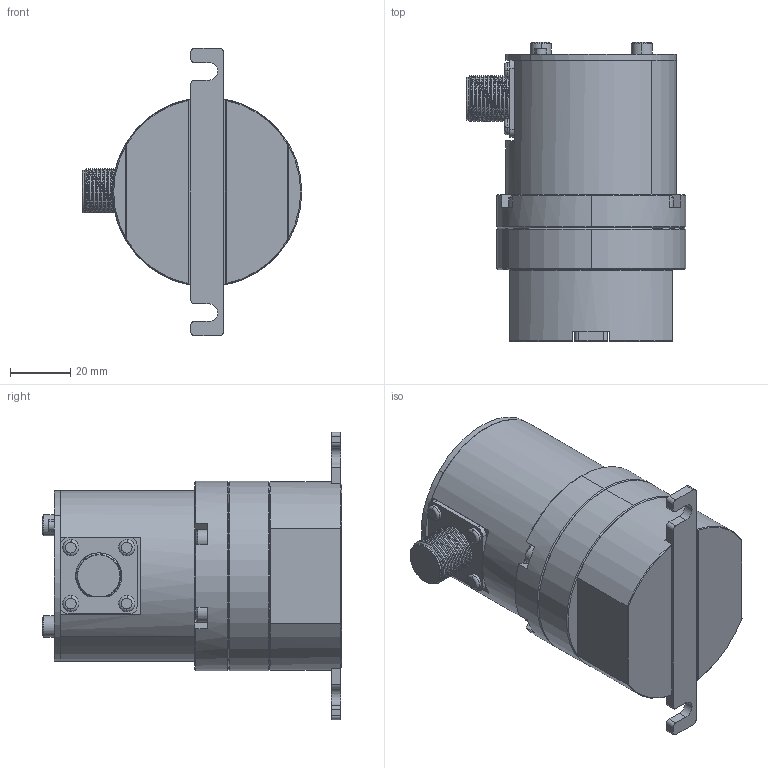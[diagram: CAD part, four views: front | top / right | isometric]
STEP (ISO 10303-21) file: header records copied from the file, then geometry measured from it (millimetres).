
FILE_DESCRIPTION((''),'2;1');
FILE_NAME('FX250XX-EN-A_PRT','2022-06-21T15:06:33',('qufmd1'),(''),'CREO PARAMETRIC BY PTC INC, 2021072','CREO PARAMETRIC BY PTC INC, 2021072','');
FILE_SCHEMA(('CONFIG_CONTROL_DESIGN'));
Length unit declared in the file: inch
Products named in the file (1): FX250XX-EN-A_PRT
Bounding box: 72.78 x 99.25 x 95.25 mm (x, y, z)
Surface area: 42983.5 mm2 (no closed solid volume)
Topology: 0 solids, 20 shells, 230 faces, 585 edges, 378 vertices
Faces by surface type: cylinder 86, plane 64, cone 36, bspline 36, torus 8
Entity records: 16889 total; most frequent: CARTESIAN_POINT 11624, ORIENTED_EDGE 1124, DIRECTION 990, EDGE_CURVE 585, VERTEX_POINT 378, AXIS2_PLACEMENT_3D 374, VECTOR 242, LINE 242
